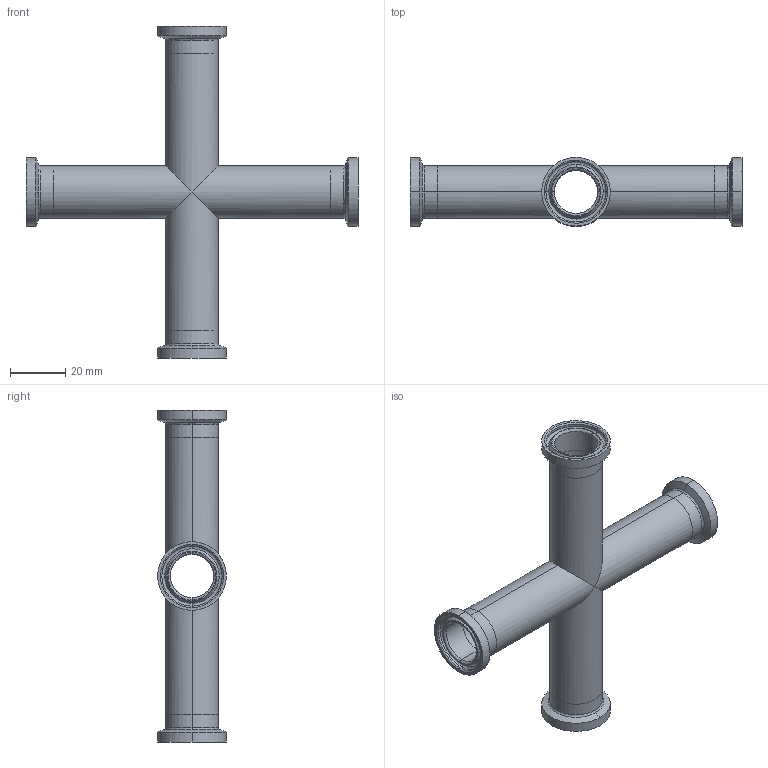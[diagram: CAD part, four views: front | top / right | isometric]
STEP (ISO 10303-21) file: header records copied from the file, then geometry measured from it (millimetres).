
FILE_DESCRIPTION (( 'STEP AP214' ), '1' );
FILE_NAME ('TEG96L.75-...STEP', '2016-05-22T05:34:37', ( 'eran' ), ( '' ), 'SwSTEP 2.0', 'SolidWorks 2016', '' );
FILE_SCHEMA (( 'AUTOMOTIVE_DESIGN' ));
Length unit declared in the file: millimetre
Products named in the file (1): TEG96L.75-..
Bounding box: 120.65 x 24.99 x 120.65 mm (x, y, z)
Volume: 22098.5 mm3; surface area: 27080.2 mm2
Topology: 5 solids, 5 shells, 112 faces, 262 edges, 162 vertices
Faces by surface type: cylinder 48, bspline 32, plane 16, cone 16
Entity records: 3698 total; most frequent: CARTESIAN_POINT 1113, DIRECTION 558, ORIENTED_EDGE 524, EDGE_CURVE 262, AXIS2_PLACEMENT_3D 247, CIRCLE 166, VERTEX_POINT 162, EDGE_LOOP 128
